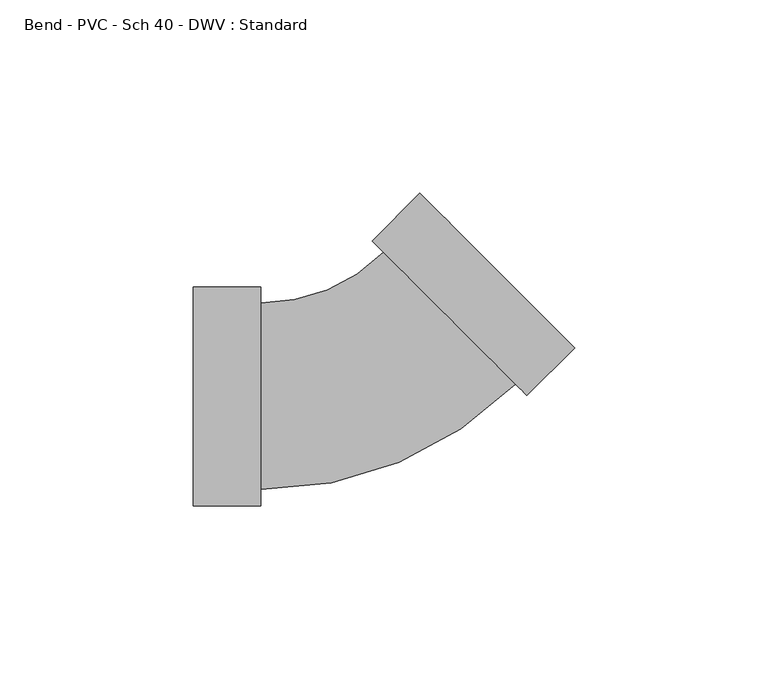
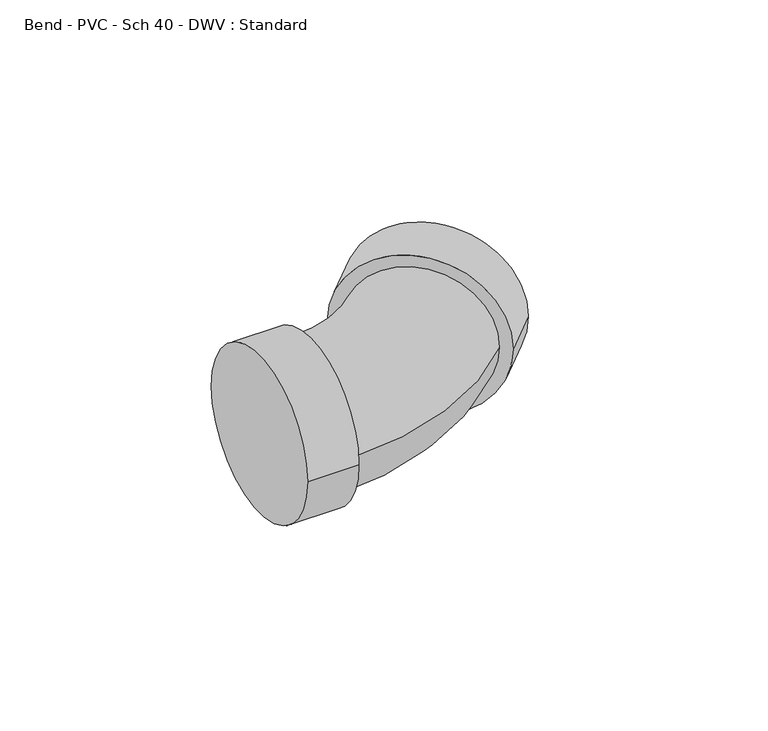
"""IFC4 building model written with IfcOpenShell, lengths in millimetres: pipe fitting geometry, Bend - PVC - Sch 40 - DWV : Standard."""

from ifc_helpers import new_model, si_unit, point, frame, origin, place, context, project, spatial, circle_curve, ellipse_curve, trimmed, source, transform, mapped, element, save
from ifc_brep_helpers import plane_surface, cylinder_surface, revolved_surface, advanced_brep


def bend_pvc_sch_40_dwv_standard_9b9136b8(model_context):
    return source(origin(), model_context, "Body", "AdvancedBrep", [
        advanced_brep(
        [(-46.0248, -28.2829, 0.0), (-46.0248, 28.2829, 0.0), (-28.575, -28.2829, 0.0), (-28.575, 28.2829, 0.0), (-28.575, -24.13, 0.0), (-28.575, 24.13, 0.0), (3.1446929, 37.2679277, 0.0), (37.2681981, 3.1414864, 0.0), (40.2046155, 0.2048163, 0.0), (0.2082754, 40.2045977, 0.0), (52.5440182, 12.5431574, 0.0), (12.5476781, 52.5429388, 0.0)],
        [
            (0, 1, circle_curve(frame((-46.0248, 0.0, 0.0), z_axis=(-1.0, 0.0, 0.0), x_axis=(0.0, 1.0, 0.0)), 28.2829)),
            (1, 0, circle_curve(frame((-46.0248, 0.0, 0.0), z_axis=(-1.0, 0.0, 0.0), x_axis=(0.0, 1.0, 0.0)), 28.2829)),
            (2, 3, circle_curve(frame((-28.575, 0.0, 0.0), z_axis=(1.0, 0.0, 0.0), x_axis=(0.0, 1.0, 0.0)), 28.2829)),
            (3, 2, circle_curve(frame((-28.575, 0.0, 0.0), z_axis=(1.0, 0.0, 0.0), x_axis=(0.0, 1.0, 0.0)), 28.2829)),
            (4, 5, circle_curve(frame((-28.575, 0.0, 0.0), z_axis=(-1.0, 0.0, 0.0), x_axis=(0.0, 1.0, 0.0)), 24.13)),
            (5, 4, circle_curve(frame((-28.575, 0.0, 0.0), z_axis=(-1.0, 0.0, 0.0), x_axis=(0.0, 1.0, 0.0)), 24.13)),
            (0, 2),
            (3, 1),
            (6, 5, circle_curve(frame((-28.575, 68.9903497, 0.0), z_axis=(0.0, 0.0, -1.0), x_axis=(0.0, -1.0, 0.0)), 44.8603497)),
            (4, 7, circle_curve(frame((-28.575, 68.9903497, 0.0), z_axis=(0.0, 0.0, 1.0), x_axis=(0.0, -1.0, 0.0)), 93.1203497)),
            (7, 6, circle_curve(frame((20.2064455, 20.204707, 0.0), z_axis=(-0.7071371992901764, -0.7070763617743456, 0.0), x_axis=(-0.7070763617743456, 0.7071371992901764, 0.0)), 24.13)),
            (6, 7, circle_curve(frame((20.2064455, 20.204707, 0.0), z_axis=(-0.7071371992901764, -0.7070763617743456, 0.0), x_axis=(-0.7070763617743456, 0.7071371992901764, 0.0)), 24.13)),
            (8, 9, circle_curve(frame((20.2064455, 20.204707, 0.0), z_axis=(-0.7071371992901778, -0.7070763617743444, 0.0), x_axis=(-0.7070763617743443, 0.7071371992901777, 0.0)), 28.2829)),
            (9, 8, circle_curve(frame((20.2064455, 20.204707, 0.0), z_axis=(-0.7071371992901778, -0.7070763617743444, 0.0), x_axis=(-0.7070763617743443, 0.7071371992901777, 0.0)), 28.2829)),
            (10, 11, circle_curve(frame((32.5458482, 32.5430481, 0.0), z_axis=(0.7071371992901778, 0.7070763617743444, 0.0), x_axis=(-0.7070763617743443, 0.7071371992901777, 0.0)), 28.2829)),
            (11, 10, circle_curve(frame((32.5458482, 32.5430481, 0.0), z_axis=(0.7071371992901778, 0.7070763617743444, 0.0), x_axis=(-0.7070763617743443, 0.7071371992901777, 0.0)), 28.2829)),
            (8, 10),
            (11, 9),
        ],
        [
            plane_surface(frame((-46.0248, 0.0, 0.0), z_axis=(-1.0, 0.0, 0.0), x_axis=(0.0, 0.0, 1.0))),
            plane_surface(frame((-28.575, 0.0, 0.0), z_axis=(1.0, 0.0, 0.0), x_axis=(0.0, 0.0, 1.0))),
            cylinder_surface(frame((-46.0248, 0.0, 0.0), z_axis=(-1.0, 0.0, 0.0), x_axis=(0.0, 1.0, 0.0)), 28.2829),
            revolved_surface(trimmed(ellipse_curve(frame((-28.575, 0.0, 0.0), z_axis=(-1.0, 0.0, 0.0), x_axis=(0.0, 1.0, 0.0)), 24.13, 24.13), [point((-28.575, -24.13, 0.0))], [point((-28.575, 24.13, 0.0))], True, "CARTESIAN"), (-28.575, 68.9903497, 0.0), (0.0, 0.0, 1.0)),
            revolved_surface(trimmed(ellipse_curve(frame((-28.575, 0.0, 0.0), z_axis=(-1.0, 0.0, 0.0), x_axis=(0.0, 1.0, 0.0)), 24.13, 24.13), [point((-28.575, 24.13, 0.0))], [point((-28.575, -24.13, 0.0))], True, "CARTESIAN"), (-28.575, 68.9903497, 0.0), (0.0, 0.0, 1.0)),
            plane_surface(frame((20.2064455, 20.204707, 0.0), z_axis=(-0.7071371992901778, -0.7070763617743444, 0.0), x_axis=(0.0, 0.0, 1.0))),
            plane_surface(frame((32.5458482, 32.5430481, 0.0), z_axis=(0.7071371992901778, 0.7070763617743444, 0.0), x_axis=(0.0, 0.0, 1.0))),
            cylinder_surface(frame((20.2064455, 20.204707, 0.0), z_axis=(-0.7071371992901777, -0.7070763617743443, 0.0), x_axis=(-0.7070763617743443, 0.7071371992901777, 0.0)), 28.2829),
        ],
        [
            (0, [[1, 2]]),
            (1, [[3, 4], [5, 6]]),
            (2, [[-1, 7, -4, 8]]),
            (2, [[-2, -8, -3, -7]]),
            (3, [[9, -5, 10, 11]]),
            (4, [[-9, 12, -10, -6]]),
            (5, [[13, 14], [-11, -12]]),
            (6, [[15, 16]]),
            (7, [[-13, 17, -16, 18]]),
            (7, [[-14, -18, -15, -17]]),
        ],
    ),
    ])


if __name__ == "__main__":
    model = new_model("IFC4")
    model_context = context("Model", 3, world=origin())
    ifc_project = project(units=[si_unit("LENGTHUNIT", "METRE", prefix="MILLI")], contexts=[model_context])
    site = spatial("IfcSite", under=ifc_project)
    building = spatial("IfcBuilding", under=site)
    placement = place(None, origin())
    bend_pvc_sch_40_dwv_standard_shape = bend_pvc_sch_40_dwv_standard_9b9136b8(model_context)
    element("IfcPipeFitting", 1, ObjectType="Bend - PVC - Sch 40 - DWV : Standard", at=placement, inside=building, context=model_context, shape_type="MappedRepresentation", body=[
        mapped(bend_pvc_sch_40_dwv_standard_shape, transform((0.0, 0.0, 0.0), x_axis=(1.0, 0.0, 0.0), y_axis=(0.0, 1.0, 0.0), z_axis=(0.0, 0.0, 1.0))),
    ])
    save(model, "model.ifc")
